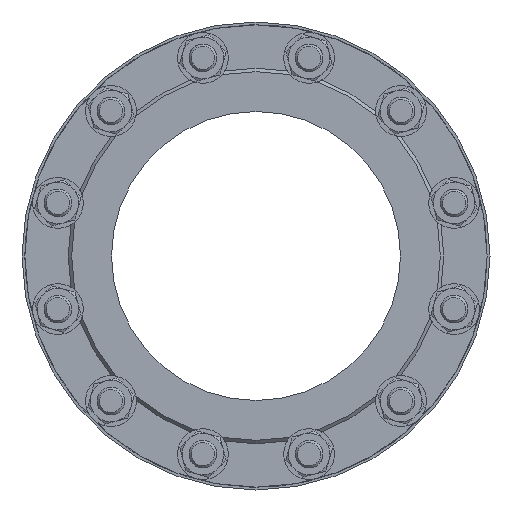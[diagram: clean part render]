
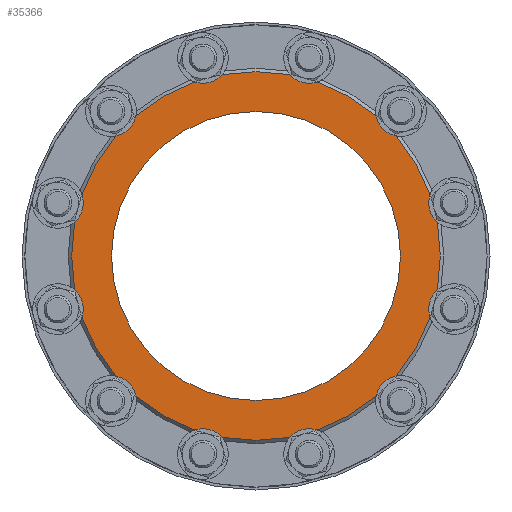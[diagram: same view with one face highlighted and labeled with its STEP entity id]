
A CAD part, left-side view. The second image highlights one B-rep face of the part: STEP entity #35366.
In plain terms, the highlighted planar face has unit normal (-1, 0, 0).
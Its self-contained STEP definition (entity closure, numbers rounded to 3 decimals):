
#1881 = VERTEX_POINT ( 'NONE', #12423 ) ;
#2615 = CARTESIAN_POINT ( 'NONE',  ( -65., 0., 0. ) ) ;
#5042 = CARTESIAN_POINT ( 'NONE',  ( -65., 0., -125. ) ) ;
#6923 = CIRCLE ( 'NONE', #31091, 159.5 ) ;
#7073 = CARTESIAN_POINT ( 'NONE',  ( -65., 0., 125. ) ) ;
#8031 = VERTEX_POINT ( 'NONE', #5042 ) ;
#9718 = DIRECTION ( 'NONE',  ( 0., 0., -1. ) ) ;
#10523 = FACE_BOUND ( 'NONE', #38318, .T. ) ;
#11729 = EDGE_LOOP ( 'NONE', ( #24584 ) ) ;
#12423 = CARTESIAN_POINT ( 'NONE',  ( -65., -159.5, 0. ) ) ;
#16823 = DIRECTION ( 'NONE',  ( 1., 0., 0. ) ) ;
#16942 = DIRECTION ( 'NONE',  ( 1., 0., 0. ) ) ;
#24482 = FACE_OUTER_BOUND ( 'NONE', #11729, .T. ) ;
#24584 = ORIENTED_EDGE ( 'NONE', *, *, #34873, .T. ) ;
#26256 = CIRCLE ( 'NONE', #28466, 125. ) ;
#27084 = CARTESIAN_POINT ( 'NONE',  ( -65., 0., 0. ) ) ;
#28152 = DIRECTION ( 'NONE',  ( 0., 1., 0. ) ) ;
#28466 = AXIS2_PLACEMENT_3D ( 'NONE', #2615, #16823, #9718 ) ;
#30304 = DIRECTION ( 'NONE',  ( -1., 0., 0. ) ) ;
#31091 = AXIS2_PLACEMENT_3D ( 'NONE', #27084, #30304, #41115 ) ;
#34873 = EDGE_CURVE ( 'NONE', #1881, #1881, #6923, .T. ) ;
#35366 = ADVANCED_FACE ( 'NONE', ( #10523, #24482 ), #38523, .F. ) ;
#35432 = ORIENTED_EDGE ( 'NONE', *, *, #41507, .T. ) ;
#38318 = EDGE_LOOP ( 'NONE', ( #35432 ) ) ;
#38523 = PLANE ( 'NONE',  #41372 ) ;
#41115 = DIRECTION ( 'NONE',  ( 0., -1., 0. ) ) ;
#41372 = AXIS2_PLACEMENT_3D ( 'NONE', #7073, #16942, #28152 ) ;
#41507 = EDGE_CURVE ( 'NONE', #8031, #8031, #26256, .T. ) ;
